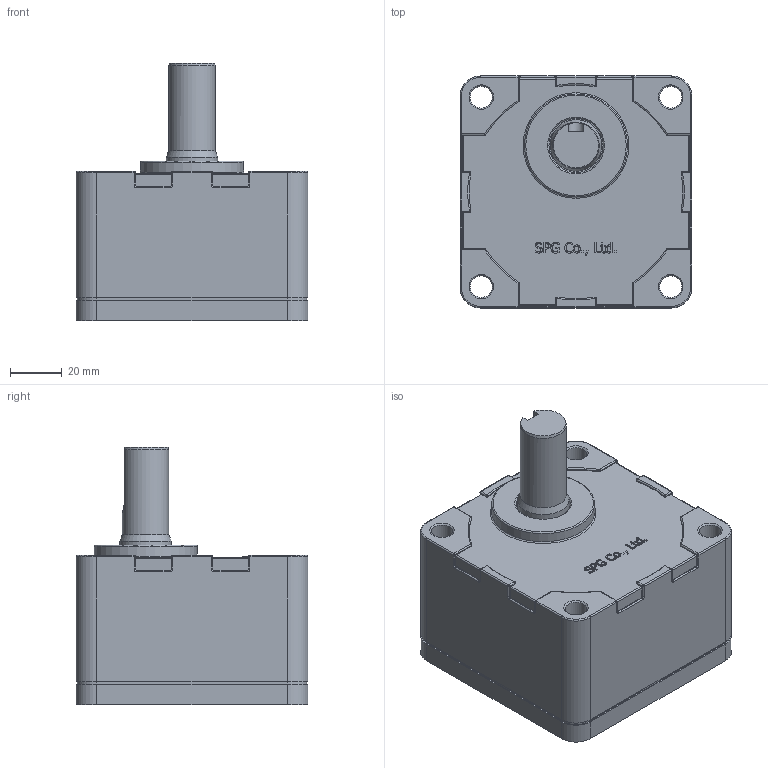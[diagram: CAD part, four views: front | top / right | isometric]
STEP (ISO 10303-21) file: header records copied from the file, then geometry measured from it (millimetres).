
FILE_DESCRIPTION((''),'2;1');
FILE_NAME('C:\Documents and Settings\Administrator\바탕 화면\BLDC 3D FILE\GEAR HEAD ASS''Y\60\XTG930K~XTG9100K.stp','2014-06-19T12:46:42',('kdhkdh'),(''),'Autodesk Inventor 2011','Autodesk Inventor 2011','');
FILE_SCHEMA(('AUTOMOTIVE_DESIGN { 1 0 10303 214 1 1 1 1 }'));
Length unit declared in the file: millimetre
Products named in the file (1): 부품6
Bounding box: 90 x 90 x 100 mm (x, y, z)
Volume: 448200.4 mm3; surface area: 48058 mm2
Topology: 1 solids, 1 shells, 455 faces, 1142 edges, 694 vertices
Faces by surface type: plane 154, cylinder 143, bspline 81, sphere 32, torus 30, cone 15
Full cylindrical faces by diameter (mm): 3 x4, 4 x4, 5 x4, 8 x4, 8.5 x8, 9 x1, 18 x1, 20 x1, 21 x1, 40 x1, 83 x1
Entity records: 13429 total; most frequent: CARTESIAN_POINT 3343, ORIENTED_EDGE 2084, DIRECTION 1965, EDGE_CURVE 1042, AXIS2_PLACEMENT_3D 716, VERTEX_POINT 672, EDGE_LOOP 546, VECTOR 533
